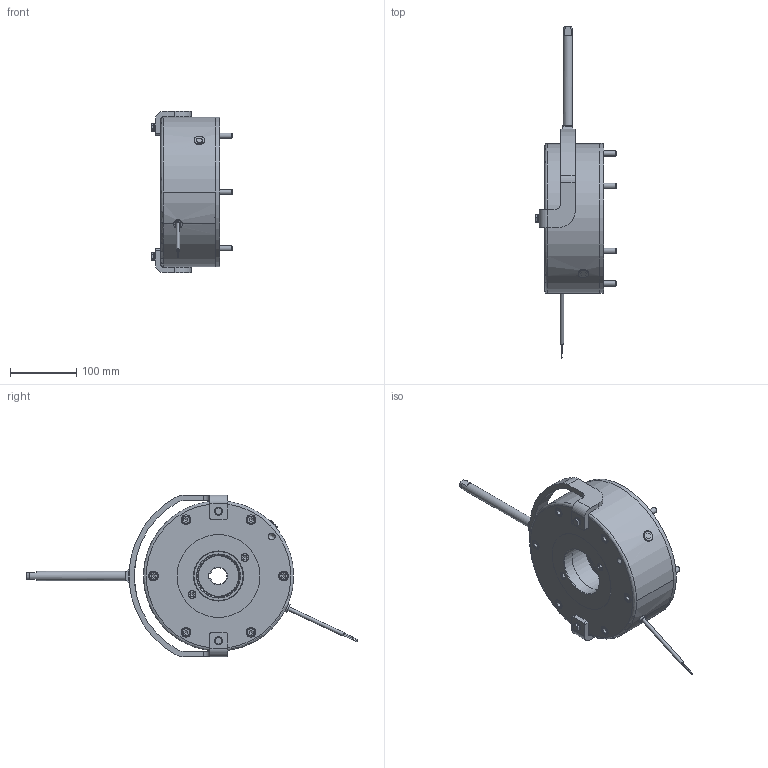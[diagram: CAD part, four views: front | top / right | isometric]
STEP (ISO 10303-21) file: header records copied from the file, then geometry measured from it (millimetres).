
FILE_DESCRIPTION(/* description */ (''),/* implementation_level */ '2;1');
FILE_NAME(/* name */ 'C:\SapWorkDir\Inventor\IP1\ConvertTempPath\5028818_IPT_000.ipt.stp',/* time_stamp */ '2020-09-18T14:47:26+02:00',/* author */ ('STRATE'),/* organization */ (''),/* preprocessor_version */ 'ST-DEVELOPER v17',/* originating_system */ 'Autodesk Inventor 2018',/* authorisation */ '');
FILE_SCHEMA (('AUTOMOTIVE_DESIGN { 1 0 10303 214 3 1 1 }'));
Length unit declared in the file: millimetre
Products named in the file (1): 5028818
Bounding box: 121.7 x 500.12 x 243 mm (x, y, z)
Volume: 3041894.5 mm3; surface area: 464444.1 mm2
Topology: 5 solids, 5 shells, 739 faces, 2006 edges, 1361 vertices
Faces by surface type: cylinder 380, plane 206, cone 114, torus 36, bspline 3
Full cylindrical faces by diameter (mm): 0.01 x1, 1 x2, 1.85 x2, 5.3 x1, 6 x3, 6.4 x2, 7 x1, 7.3 x2, 7.5 x2, 7.6 x1, 8 x6, 8.2 x6, 8.3 x3, 8.376 x1, 8.7 x6, 8.9 x2, 9 x6, 9.8 x2, 10 x7, 11 x2, 11.8 x2, 11.835 x2, 12 x2, 12.5 x6, 13 x6, 13.2 x1, 13.9 x6, 14 x1, 15 x6, 16 x1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
Entity records: 25703 total; most frequent: CARTESIAN_POINT 5782, DIRECTION 4095, ORIENTED_EDGE 4002, EDGE_CURVE 2001, AXIS2_PLACEMENT_3D 1719, VERTEX_POINT 1361, CIRCLE 982, EDGE_LOOP 890
